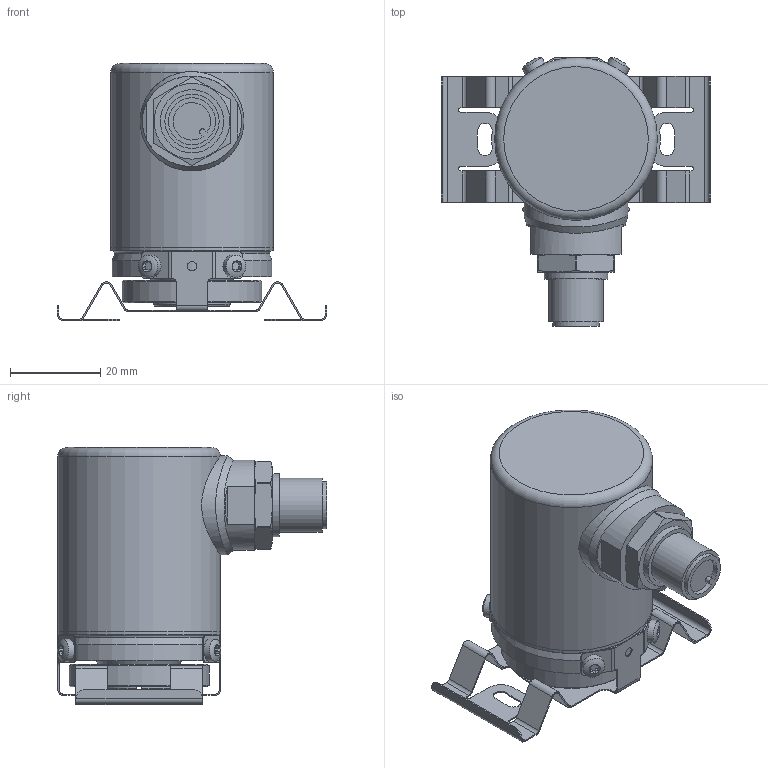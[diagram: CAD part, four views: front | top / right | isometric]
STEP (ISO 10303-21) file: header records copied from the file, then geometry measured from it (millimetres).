
FILE_DESCRIPTION( ( 'Unknown' ), '1' );
FILE_NAME( 'X:/SolidEdge/Models/Drehgeber/10720092 Magres 4/36/DAB, vereinfachte Modelle und Montagezeichnungen/Geber/Hohlwelle/ø14 EAM360-BxE.xxxx.xxxx.A/M12/Neutralformate/EAM360-BDE.xxxx.xxxxx.A_M12.stp', 'Unknown', ( 'Unknown' ), ( 'Unknown' ), 'PSStep 19.0.9', 'Unknown', ' ' );
FILE_SCHEMA( ( 'AUTOMOTIVE_DESIGN { 1 0 10303 214 1 1 1 1 }' ) );
Length unit declared in the file: millimetre
Products named in the file (14): Stecker M12; 11159954_vereinfacht; 11159955_vereinfacht; 6Kant Mutter M14; 36 H BoMo 14 vereinfacht; 11158184_vereinfacht; 126053; 11115507; 11158188 vereinfacht; EAM360-BNE.xxxx.xxxxx.A_M12; 11161012_vereinfacht; Assem1; 11163909; 138551
Assembly tree (16 placements, depth 4):
  Assem1
    11163909
    138551  x4
    EAM360-BNE.xxxx.xxxxx.A_M12
      11161012_vereinfacht
      Stecker M12
        11159954_vereinfacht
        11159955_vereinfacht
        6Kant Mutter M14
      36 H BoMo 14 vereinfacht
        11158184_vereinfacht
        126053
        11115507
        11158188 vereinfacht
Bounding box: 59.57 x 59.59 x 56.9 mm (x, y, z)
Volume: 54460.6 mm3; surface area: 25826.2 mm2
Topology: 13 solids, 13 shells, 416 faces, 1106 edges, 731 vertices
Faces by surface type: plane 207, cylinder 171, cone 21, torus 10, sphere 4, extrusion 2, bspline 1
Full cylindrical faces by diameter (mm): 2.013 x9, 2.05 x2, 2.5 x5, 2.55 x4, 2.6 x1, 4.5 x1, 5 x4, 10.4 x1, 12 x1, 14 x3, 14.522 x1, 15.5 x1, 19 x2, 20 x1, 34.4 x2, 35.3 x1, 36 x2
Entity records: 13969 total; most frequent: CARTESIAN_POINT 2640, DIRECTION 1812, ORIENTED_EDGE 1688, EDGE_CURVE 844, AXIS2_PLACEMENT_3D 679, VERTEX_POINT 586, VECTOR 454, LINE 452
